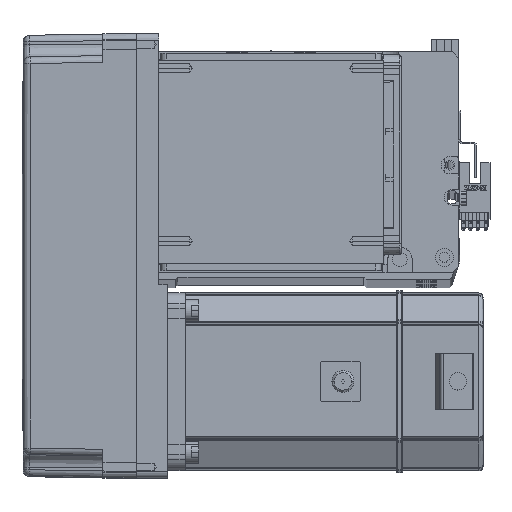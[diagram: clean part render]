
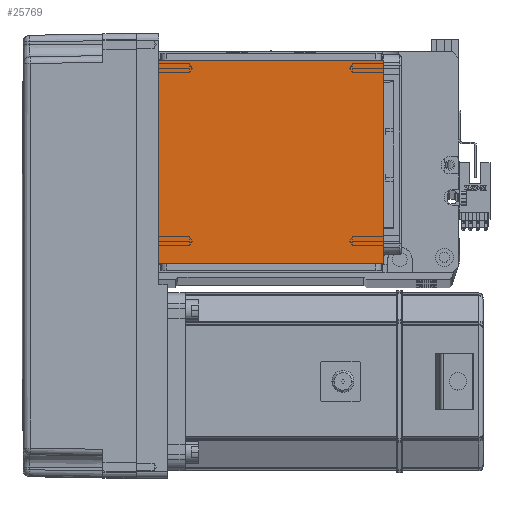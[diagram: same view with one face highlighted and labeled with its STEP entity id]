
A CAD part, top view. The second image highlights one B-rep face of the part: STEP entity #25769.
In plain terms, the highlighted planar face has unit normal (0, 0, 1).
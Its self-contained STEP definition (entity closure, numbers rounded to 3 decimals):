
#478 = CARTESIAN_POINT ( 'NONE',  ( 50.5, 122., 115. ) ) ;
#1437 = PLANE ( 'NONE',  #24804 ) ;
#1828 = VECTOR ( 'NONE', #49223, 1000. ) ;
#3507 = CARTESIAN_POINT ( 'NONE',  ( -70.004, 111.5, 115. ) ) ;
#5597 = DIRECTION ( 'NONE',  ( 1., 0., 0. ) ) ;
#9387 = FACE_OUTER_BOUND ( 'NONE', #55147, .T. ) ;
#11850 = CARTESIAN_POINT ( 'NONE',  ( 50.5, 111.5, 115. ) ) ;
#13406 = VERTEX_POINT ( 'NONE', #11850 ) ;
#17809 = CARTESIAN_POINT ( 'NONE',  ( 50.5, 20., 115. ) ) ;
#18646 = ORIENTED_EDGE ( 'NONE', *, *, #26034, .T. ) ;
#18871 = EDGE_CURVE ( 'NONE', #38879, #41305, #36894, .T. ) ;
#18883 = DIRECTION ( 'NONE',  ( 0., 1., 0. ) ) ;
#19632 = DIRECTION ( 'NONE',  ( 0., 0., 1. ) ) ;
#24804 = AXIS2_PLACEMENT_3D ( 'NONE', #25029, #19632, #5597 ) ;
#25029 = CARTESIAN_POINT ( 'NONE',  ( 0., 0., 115. ) ) ;
#25608 = CARTESIAN_POINT ( 'NONE',  ( -50.5, 122., 115. ) ) ;
#25769 = ADVANCED_FACE ( 'NONE', ( #9387 ), #1437, .T. ) ;
#26034 = EDGE_CURVE ( 'NONE', #54651, #13406, #40695, .T. ) ;
#31883 = CARTESIAN_POINT ( 'NONE',  ( -70.004, 20., 115. ) ) ;
#35520 = ORIENTED_EDGE ( 'NONE', *, *, #18871, .T. ) ;
#36385 = EDGE_CURVE ( 'NONE', #54651, #41305, #51775, .T. ) ;
#36894 = LINE ( 'NONE', #25608, #1828 ) ;
#37498 = VECTOR ( 'NONE', #45730, 1000. ) ;
#37545 = DIRECTION ( 'NONE',  ( 1., 0., 0. ) ) ;
#38879 = VERTEX_POINT ( 'NONE', #52155 ) ;
#40695 = LINE ( 'NONE', #478, #43718 ) ;
#41305 = VERTEX_POINT ( 'NONE', #50451 ) ;
#43718 = VECTOR ( 'NONE', #18883, 1000. ) ;
#44805 = LINE ( 'NONE', #3507, #62050 ) ;
#45730 = DIRECTION ( 'NONE',  ( -1., 0., 0. ) ) ;
#49223 = DIRECTION ( 'NONE',  ( 0., -1., 0. ) ) ;
#49657 = ORIENTED_EDGE ( 'NONE', *, *, #36385, .F. ) ;
#50451 = CARTESIAN_POINT ( 'NONE',  ( -50.5, 20., 115. ) ) ;
#51775 = LINE ( 'NONE', #31883, #37498 ) ;
#52155 = CARTESIAN_POINT ( 'NONE',  ( -50.5, 111.5, 115. ) ) ;
#54651 = VERTEX_POINT ( 'NONE', #17809 ) ;
#55147 = EDGE_LOOP ( 'NONE', ( #56057, #35520, #49657, #18646 ) ) ;
#56057 = ORIENTED_EDGE ( 'NONE', *, *, #57743, .F. ) ;
#57743 = EDGE_CURVE ( 'NONE', #38879, #13406, #44805, .T. ) ;
#62050 = VECTOR ( 'NONE', #37545, 1000. ) ;
